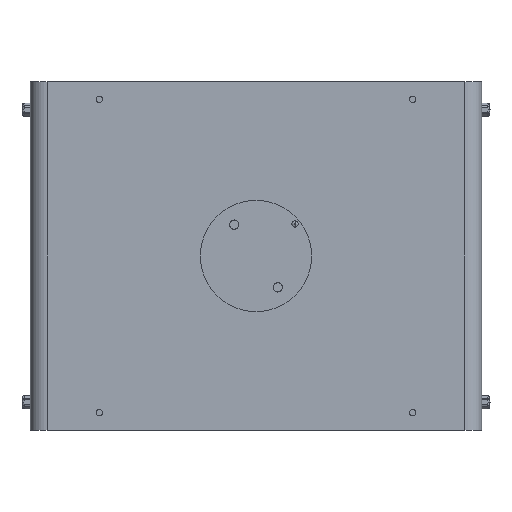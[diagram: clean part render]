
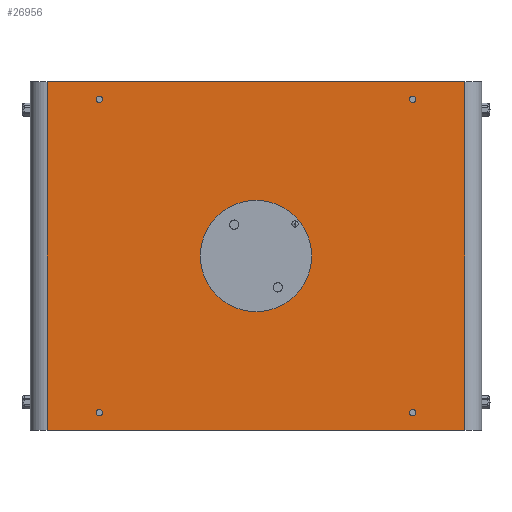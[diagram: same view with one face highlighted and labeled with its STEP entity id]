
A CAD part, front view. The second image highlights one B-rep face of the part: STEP entity #26956.
In plain terms, the highlighted planar face has unit normal (0, -1, 0).
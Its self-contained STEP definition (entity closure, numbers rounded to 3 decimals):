
#26307=DIRECTION('',(-1.,0.,0.));
#26308=VECTOR('',#26307,250.);
#26309=CARTESIAN_POINT('',(125.,0.,-150.));
#26310=LINE('',#26309,#26308);
#26311=DIRECTION('',(0.,0.,1.));
#26312=VECTOR('',#26311,300.);
#26313=CARTESIAN_POINT('',(-125.,0.,-150.));
#26314=LINE('',#26313,#26312);
#26315=DIRECTION('',(1.,0.,0.));
#26316=VECTOR('',#26315,250.);
#26317=CARTESIAN_POINT('',(-125.,0.,150.));
#26318=LINE('',#26317,#26316);
#26319=CARTESIAN_POINT('',(0.,0.,0.));
#26320=DIRECTION('',(0.,-1.,0.));
#26321=DIRECTION('',(1.,0.,0.));
#26322=AXIS2_PLACEMENT_3D('',#26319,#26320,#26321);
#26324=CARTESIAN_POINT('',(0.,0.,0.));
#26325=DIRECTION('',(0.,-1.,0.));
#26326=DIRECTION('',(-1.,0.,0.));
#26327=AXIS2_PLACEMENT_3D('',#26324,#26325,#26326);
#26329=CARTESIAN_POINT('',(-112.5,0.,112.5));
#26330=DIRECTION('',(0.,-1.,0.));
#26331=DIRECTION('',(1.,0.,0.));
#26332=AXIS2_PLACEMENT_3D('',#26329,#26330,#26331);
#26334=CARTESIAN_POINT('',(-112.5,0.,112.5));
#26335=DIRECTION('',(0.,-1.,0.));
#26336=DIRECTION('',(-1.,0.,0.));
#26337=AXIS2_PLACEMENT_3D('',#26334,#26335,#26336);
#26339=CARTESIAN_POINT('',(112.5,0.,112.5));
#26340=DIRECTION('',(0.,-1.,0.));
#26341=DIRECTION('',(1.,0.,0.));
#26342=AXIS2_PLACEMENT_3D('',#26339,#26340,#26341);
#26344=CARTESIAN_POINT('',(112.5,0.,112.5));
#26345=DIRECTION('',(0.,-1.,0.));
#26346=DIRECTION('',(-1.,0.,0.));
#26347=AXIS2_PLACEMENT_3D('',#26344,#26345,#26346);
#26349=CARTESIAN_POINT('',(-112.5,0.,-112.5));
#26350=DIRECTION('',(0.,-1.,0.));
#26351=DIRECTION('',(1.,0.,0.));
#26352=AXIS2_PLACEMENT_3D('',#26349,#26350,#26351);
#26354=CARTESIAN_POINT('',(-112.5,0.,-112.5));
#26355=DIRECTION('',(0.,-1.,0.));
#26356=DIRECTION('',(-1.,0.,0.));
#26357=AXIS2_PLACEMENT_3D('',#26354,#26355,#26356);
#26359=CARTESIAN_POINT('',(112.5,0.,-112.5));
#26360=DIRECTION('',(0.,-1.,0.));
#26361=DIRECTION('',(1.,0.,0.));
#26362=AXIS2_PLACEMENT_3D('',#26359,#26360,#26361);
#26364=CARTESIAN_POINT('',(112.5,0.,-112.5));
#26365=DIRECTION('',(0.,-1.,0.));
#26366=DIRECTION('',(-1.,0.,0.));
#26367=AXIS2_PLACEMENT_3D('',#26364,#26365,#26366);
#26653=DIRECTION('',(0.,0.,1.));
#26654=VECTOR('',#26653,300.);
#26655=CARTESIAN_POINT('',(125.,0.,-150.));
#26656=LINE('',#26655,#26654);
#26777=CARTESIAN_POINT('',(125.,0.,150.));
#26779=VERTEX_POINT('',#26777);
#26782=CARTESIAN_POINT('',(-125.,0.,150.));
#26784=VERTEX_POINT('',#26782);
#26785=CARTESIAN_POINT('',(-125.,0.,-150.));
#26787=VERTEX_POINT('',#26785);
#26790=CARTESIAN_POINT('',(125.,0.,-150.));
#26792=VERTEX_POINT('',#26790);
#26825=CARTESIAN_POINT('',(40.,0.,0.));
#26826=CARTESIAN_POINT('',(-40.,0.,0.));
#26827=VERTEX_POINT('',#26825);
#26828=VERTEX_POINT('',#26826);
#26829=CARTESIAN_POINT('',(-110.25,0.,112.5));
#26830=CARTESIAN_POINT('',(-114.75,0.,112.5));
#26831=VERTEX_POINT('',#26829);
#26832=VERTEX_POINT('',#26830);
#26833=CARTESIAN_POINT('',(114.75,0.,112.5));
#26834=CARTESIAN_POINT('',(110.25,0.,112.5));
#26835=VERTEX_POINT('',#26833);
#26836=VERTEX_POINT('',#26834);
#26837=CARTESIAN_POINT('',(-110.25,0.,-112.5));
#26838=CARTESIAN_POINT('',(-114.75,0.,-112.5));
#26839=VERTEX_POINT('',#26837);
#26840=VERTEX_POINT('',#26838);
#26841=CARTESIAN_POINT('',(114.75,0.,-112.5));
#26842=CARTESIAN_POINT('',(110.25,0.,-112.5));
#26843=VERTEX_POINT('',#26841);
#26844=VERTEX_POINT('',#26842);
#26912=CARTESIAN_POINT('',(0.,0.,-162.));
#26913=DIRECTION('',(0.,-1.,0.));
#26914=DIRECTION('',(1.,0.,0.));
#26915=AXIS2_PLACEMENT_3D('',#26912,#26913,#26914);
#26916=PLANE('',#26915);
#26917=ORIENTED_EDGE('',*,*,#26902,.T.);
#26919=ORIENTED_EDGE('',*,*,#26918,.T.);
#26921=ORIENTED_EDGE('',*,*,#26920,.T.);
#26923=ORIENTED_EDGE('',*,*,#26922,.F.);
#26924=EDGE_LOOP('',(#26917,#26919,#26921,#26923));
#26925=FACE_OUTER_BOUND('',#26924,.F.);
#26927=ORIENTED_EDGE('',*,*,#26926,.T.);
#26929=ORIENTED_EDGE('',*,*,#26928,.T.);
#26930=EDGE_LOOP('',(#26927,#26929));
#26931=FACE_BOUND('',#26930,.F.);
#26933=ORIENTED_EDGE('',*,*,#26932,.T.);
#26935=ORIENTED_EDGE('',*,*,#26934,.T.);
#26936=EDGE_LOOP('',(#26933,#26935));
#26937=FACE_BOUND('',#26936,.F.);
#26939=ORIENTED_EDGE('',*,*,#26938,.T.);
#26941=ORIENTED_EDGE('',*,*,#26940,.T.);
#26942=EDGE_LOOP('',(#26939,#26941));
#26943=FACE_BOUND('',#26942,.F.);
#26945=ORIENTED_EDGE('',*,*,#26944,.T.);
#26947=ORIENTED_EDGE('',*,*,#26946,.T.);
#26948=EDGE_LOOP('',(#26945,#26947));
#26949=FACE_BOUND('',#26948,.F.);
#26951=ORIENTED_EDGE('',*,*,#26950,.T.);
#26953=ORIENTED_EDGE('',*,*,#26952,.T.);
#26954=EDGE_LOOP('',(#26951,#26953));
#26955=FACE_BOUND('',#26954,.F.);
#26956=ADVANCED_FACE('',(#26925,#26931,#26937,#26943,#26949,#26955),#26916,.T.);
#26323=CIRCLE('',#26322,40.);
#26328=CIRCLE('',#26327,40.);
#26333=CIRCLE('',#26332,2.25);
#26338=CIRCLE('',#26337,2.25);
#26343=CIRCLE('',#26342,2.25);
#26348=CIRCLE('',#26347,2.25);
#26353=CIRCLE('',#26352,2.25);
#26358=CIRCLE('',#26357,2.25);
#26363=CIRCLE('',#26362,2.25);
#26368=CIRCLE('',#26367,2.25);
#26902=EDGE_CURVE('',#26792,#26787,#26310,.T.);
#26918=EDGE_CURVE('',#26787,#26784,#26314,.T.);
#26920=EDGE_CURVE('',#26784,#26779,#26318,.T.);
#26922=EDGE_CURVE('',#26792,#26779,#26656,.T.);
#26926=EDGE_CURVE('',#26827,#26828,#26323,.T.);
#26928=EDGE_CURVE('',#26828,#26827,#26328,.T.);
#26932=EDGE_CURVE('',#26831,#26832,#26333,.T.);
#26934=EDGE_CURVE('',#26832,#26831,#26338,.T.);
#26938=EDGE_CURVE('',#26835,#26836,#26343,.T.);
#26940=EDGE_CURVE('',#26836,#26835,#26348,.T.);
#26944=EDGE_CURVE('',#26839,#26840,#26353,.T.);
#26946=EDGE_CURVE('',#26840,#26839,#26358,.T.);
#26950=EDGE_CURVE('',#26843,#26844,#26363,.T.);
#26952=EDGE_CURVE('',#26844,#26843,#26368,.T.);
